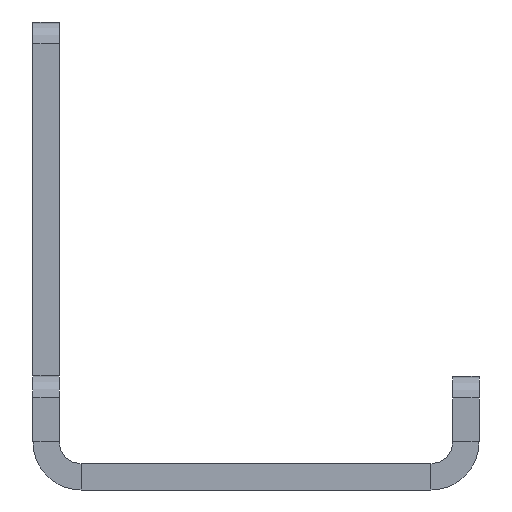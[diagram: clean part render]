
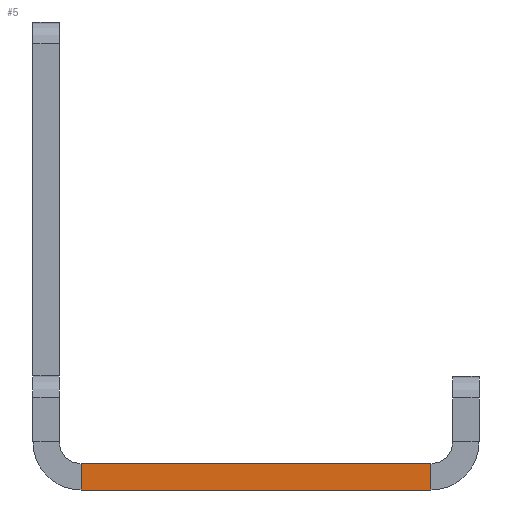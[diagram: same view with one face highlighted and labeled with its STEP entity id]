
A CAD part, left-side view. The second image highlights one B-rep face of the part: STEP entity #5.
In plain terms, the highlighted planar face has unit normal (-1, 0, 0).
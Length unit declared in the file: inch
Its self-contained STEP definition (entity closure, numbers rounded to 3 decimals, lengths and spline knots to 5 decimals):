
#5 = ADVANCED_FACE ( 'NONE', ( #666 ), #34, .T. ) ;
#9 = CARTESIAN_POINT ( 'NONE',  ( -29.9375, 0.132, 0.072 ) ) ;
#30 = DIRECTION ( 'NONE',  ( 0., 0., 1. ) ) ;
#31 = DIRECTION ( 'NONE',  ( -1., 0., 0. ) ) ;
#34 = PLANE ( 'NONE',  #1046 ) ;
#56 = VERTEX_POINT ( 'NONE', #9 ) ;
#67 = DIRECTION ( 'NONE',  ( 0., 1., 0. ) ) ;
#91 = VERTEX_POINT ( 'NONE', #189 ) ;
#93 = VERTEX_POINT ( 'NONE', #188 ) ;
#176 = CARTESIAN_POINT ( 'NONE',  ( -29.9375, 1.0924, 0.072 ) ) ;
#188 = CARTESIAN_POINT ( 'NONE',  ( -29.9375, 1.0924, 0. ) ) ;
#189 = CARTESIAN_POINT ( 'NONE',  ( -29.9375, 0.132, 0. ) ) ;
#195 = DIRECTION ( 'NONE',  ( 0., 1., 0. ) ) ;
#220 = VERTEX_POINT ( 'NONE', #176 ) ;
#249 = CARTESIAN_POINT ( 'NONE',  ( -29.9375, 0.072, 0.132 ) ) ;
#266 = CARTESIAN_POINT ( 'NONE',  ( -29.9375, 0., 0. ) ) ;
#323 = CARTESIAN_POINT ( 'NONE',  ( -29.9375, 0., 0.072 ) ) ;
#370 = EDGE_LOOP ( 'NONE', ( #414, #448, #449, #640 ) ) ;
#414 = ORIENTED_EDGE ( 'NONE', *, *, #1175, .F. ) ;
#448 = ORIENTED_EDGE ( 'NONE', *, *, #1226, .T. ) ;
#449 = ORIENTED_EDGE ( 'NONE', *, *, #1167, .T. ) ;
#515 = LINE ( 'NONE', #323, #517 ) ;
#517 = VECTOR ( 'NONE', #195, 39.37008 ) ;
#527 = LINE ( 'NONE', #266, #529 ) ;
#529 = VECTOR ( 'NONE', #67, 39.37008 ) ;
#640 = ORIENTED_EDGE ( 'NONE', *, *, #1271, .T. ) ;
#666 = FACE_OUTER_BOUND ( 'NONE', #370, .T. ) ;
#802 = LINE ( 'NONE', #1561, #869 ) ;
#869 = VECTOR ( 'NONE', #1375, 39.37008 ) ;
#936 = VECTOR ( 'NONE', #1392, 39.37008 ) ;
#944 = LINE ( 'NONE', #1456, #936 ) ;
#1046 = AXIS2_PLACEMENT_3D ( 'NONE', #249, #31, #30 ) ;
#1167 = EDGE_CURVE ( 'NONE', #56, #220, #515, .T. ) ;
#1175 = EDGE_CURVE ( 'NONE', #91, #93, #527, .T. ) ;
#1226 = EDGE_CURVE ( 'NONE', #91, #56, #802, .T. ) ;
#1271 = EDGE_CURVE ( 'NONE', #220, #93, #944, .T. ) ;
#1375 = DIRECTION ( 'NONE',  ( 0., 0., 1. ) ) ;
#1392 = DIRECTION ( 'NONE',  ( 0., 0., -1. ) ) ;
#1456 = CARTESIAN_POINT ( 'NONE',  ( -29.9375, 1.0924, 0.072 ) ) ;
#1561 = CARTESIAN_POINT ( 'NONE',  ( -29.9375, 0.132, 0. ) ) ;
